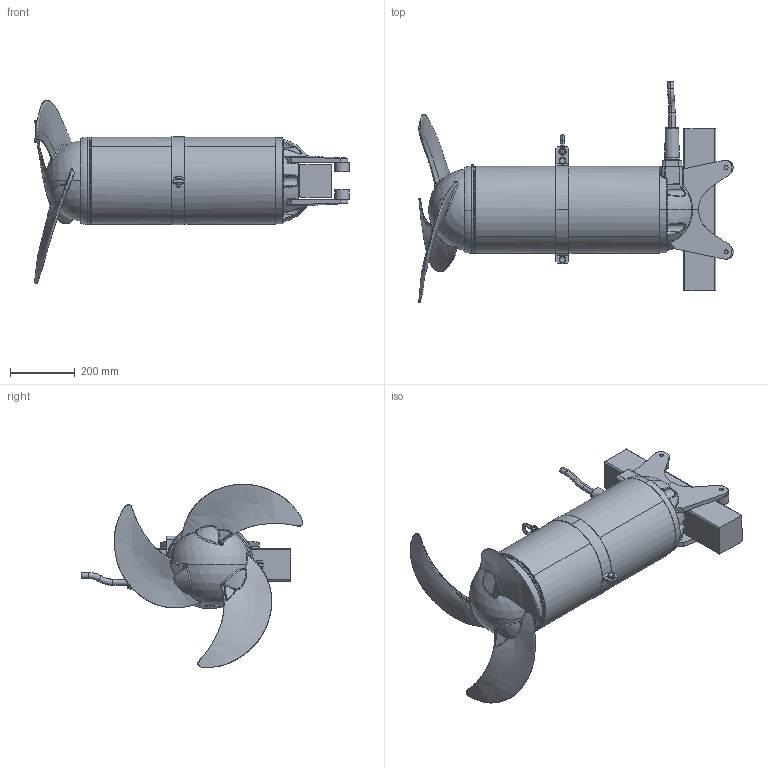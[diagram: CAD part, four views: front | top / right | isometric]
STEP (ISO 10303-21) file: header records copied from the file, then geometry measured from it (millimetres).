
FILE_DESCRIPTION (( 'STEP AP214' ), '1' );
FILE_NAME ('RW650 Vkt.100 standard_MSD.STEP', '2017-03-31T12:35:57', ( '' ), ( '' ), 'SwSTEP 2.0', 'SolidWorks 2017', '' );
FILE_SCHEMA (( 'AUTOMOTIVE_DESIGN' ));
Length unit declared in the file: millimetre
Products named in the file (1): RW650 Vkt.100 standard_MSD
Bounding box: 968 x 681.37 x 564.57 mm (x, y, z)
Volume: 46436591.4 mm3; surface area: 1511195.3 mm2
Topology: 2 solids, 10 shells, 673 faces, 1663 edges, 1022 vertices
Faces by surface type: bspline 190, cylinder 177, plane 176, cone 63, torus 57, sphere 10
Entity records: 168619 total; most frequent: CARTESIAN_POINT 146757, ORIENTED_EDGE 3260, DIRECTION 2663, EDGE_CURVE 1630, AXIS2_PLACEMENT_3D 1108, VERTEX_POINT 1014, EDGE_LOOP 728, UNCERTAINTY_MEASURE_WITH_UNIT 677
